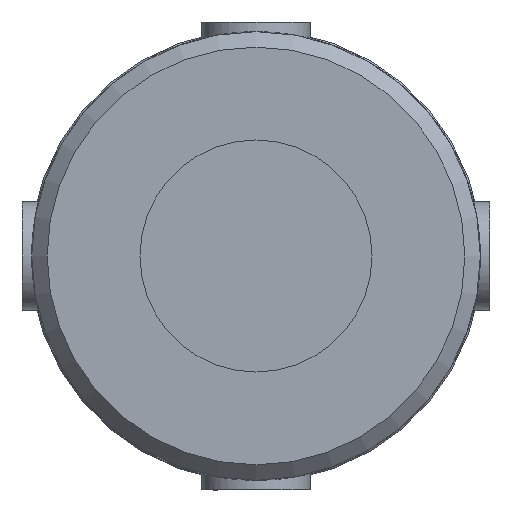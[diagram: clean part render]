
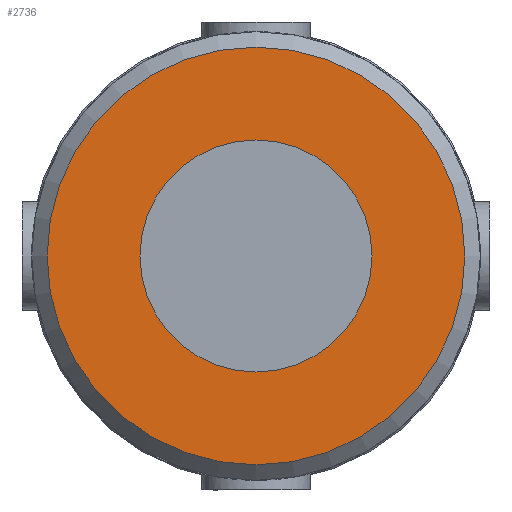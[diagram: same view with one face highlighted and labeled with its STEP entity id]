
A CAD part, left-side view. The second image highlights one B-rep face of the part: STEP entity #2736.
In plain terms, the highlighted planar face has unit normal (-1, 0, 0) as drawn and (0, -1, 0) by its records, which use the part's own axes.
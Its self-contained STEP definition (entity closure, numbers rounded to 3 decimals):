
#168=FACE_BOUND('',#608,.T.);
#261=PLANE('',#3020);
#409=FACE_OUTER_BOUND('',#607,.T.);
#607=EDGE_LOOP('',(#2448));
#608=EDGE_LOOP('',(#2449));
#1101=CIRCLE('',#3015,15.);
#1103=CIRCLE('',#3018,27.);
#1351=VERTEX_POINT('',#5057);
#1353=VERTEX_POINT('',#5062);
#1720=EDGE_CURVE('',#1351,#1351,#1101,.T.);
#1722=EDGE_CURVE('',#1353,#1353,#1103,.T.);
#2448=ORIENTED_EDGE('',*,*,#1722,.F.);
#2449=ORIENTED_EDGE('',*,*,#1720,.T.);
#2736=ADVANCED_FACE('',(#409,#168),#261,.F.);
#3015=AXIS2_PLACEMENT_3D('',#5058,#3734,#3735);
#3018=AXIS2_PLACEMENT_3D('',#5063,#3740,#3741);
#3020=AXIS2_PLACEMENT_3D('',#5263,#3748,#3749);
#3734=DIRECTION('center_axis',(0.,1.,0.));
#3735=DIRECTION('ref_axis',(-1.,0.,0.));
#3740=DIRECTION('center_axis',(0.,1.,0.));
#3741=DIRECTION('ref_axis',(1.,0.,0.));
#3748=DIRECTION('center_axis',(0.,1.,0.));
#3749=DIRECTION('ref_axis',(0.,0.,1.));
#5057=CARTESIAN_POINT('',(15.,-75.5,0.));
#5058=CARTESIAN_POINT('Origin',(0.,-75.5,0.));
#5062=CARTESIAN_POINT('',(-27.,-75.5,0.));
#5063=CARTESIAN_POINT('Origin',(0.,-75.5,0.));
#5263=CARTESIAN_POINT('Origin',(0.,-75.5,0.));
